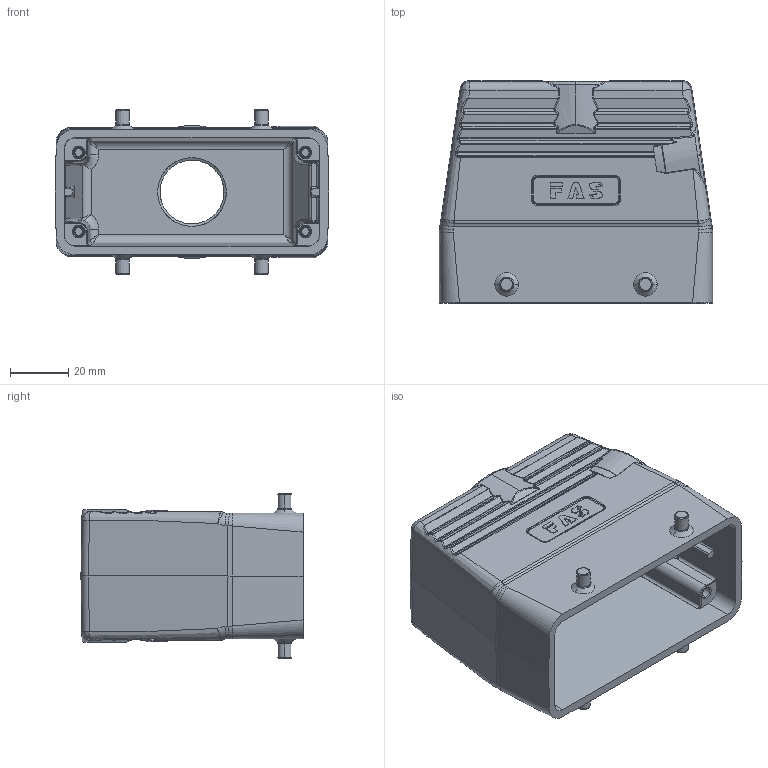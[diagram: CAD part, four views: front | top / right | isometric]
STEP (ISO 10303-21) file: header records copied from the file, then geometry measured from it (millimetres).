
FILE_DESCRIPTION (( 'STEP AP203' ), '1' );
FILE_NAME ('H16B-TGH-M25&32&40.STEP', '2020-11-21T05:21:13', ( '' ), ( '' ), 'SwSTEP 2.0', 'SolidWorks 2016', '' );
FILE_SCHEMA (( 'CONFIG_CONTROL_DESIGN' ));
Length unit declared in the file: millimetre
Products named in the file (1): H16B-TGH-M25&32&40
Bounding box: 93.5 x 76 x 56.4 mm (x, y, z)
Volume: 91807.1 mm3; surface area: 42668.1 mm2
Topology: 1 solids, 1 shells, 673 faces, 1660 edges, 1013 vertices
Faces by surface type: bspline 243, cylinder 199, plane 176, cone 55
Entity records: 31273 total; most frequent: CARTESIAN_POINT 17627, ORIENTED_EDGE 3312, DIRECTION 2156, EDGE_CURVE 1656, VERTEX_POINT 1013, AXIS2_PLACEMENT_3D 769, EDGE_LOOP 703, ADVANCED_FACE 673
